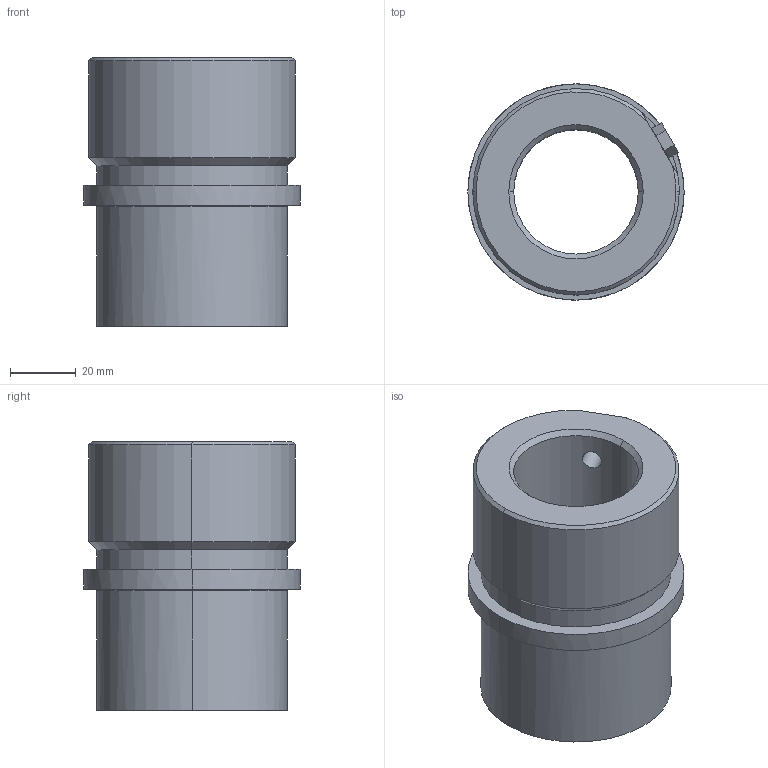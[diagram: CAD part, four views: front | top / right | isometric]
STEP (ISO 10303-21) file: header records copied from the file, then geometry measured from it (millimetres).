
FILE_DESCRIPTION(('CATIA V5 STEP Exchange'),'2;1');
FILE_NAME('C:\Users\Utente\Desktop\IO LAVORO\3D X SITO CF\X SITO\741\741-38.stp','2021-01-20T18:35:37+00:00',('none'),('none'),'CATIA Version 5 Release 20 GA (IN-10)','CATIA V5 STEP AP203','none');
FILE_SCHEMA(('CONFIG_CONTROL_DESIGN'));
Length unit declared in the file: millimetre
Products named in the file (1): 741-38
Assembly tree (1 placements, depth 2):
  741-38
    #58
Bounding box: 66 x 66 x 82 mm (x, y, z)
Volume: 142494.1 mm3; surface area: 30873.7 mm2
Topology: 1 solids, 1 shells, 42 faces, 93 edges, 58 vertices
Faces by surface type: plane 15, cylinder 14, cone 9, torus 4
Entity records: 1337 total; most frequent: CARTESIAN_POINT 369, ORIENTED_EDGE 186, DIRECTION 168, EDGE_CURVE 93, AXIS2_PLACEMENT_3D 81, VERTEX_POINT 58, EDGE_LOOP 49, VECTOR 44
